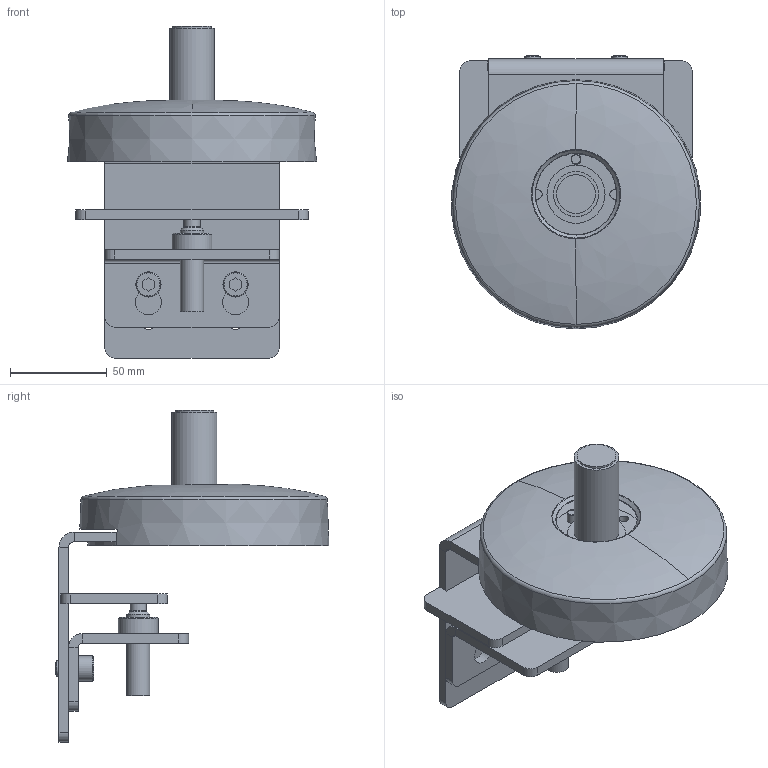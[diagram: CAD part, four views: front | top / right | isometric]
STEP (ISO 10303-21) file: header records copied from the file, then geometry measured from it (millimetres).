
FILE_DESCRIPTION(/* description */ (''),/* implementation_level */ '2;1');
FILE_NAME(/* name */ 'FLX-018-AS01.step',/* time_stamp */ '2022-10-24T10:43:43+01:00',/* author */ (''),/* organization */ (''),/* preprocessor_version */ 'ST-DEVELOPER v19.2',/* originating_system */ 'Autodesk Translation Framework v11.17.0.187',/* authorisation */ '');
FILE_SCHEMA (('AUTOMOTIVE_DESIGN { 1 0 10303 214 3 1 1 }'));
Length unit declared in the file: millimetre
Products named in the file (1): P077-Split Clamp
Bounding box: 128.77 x 141.5 x 171.53 mm (x, y, z)
Volume: 307231.9 mm3; surface area: 169221.5 mm2
Topology: 13 solids, 13 shells, 304 faces, 789 edges, 513 vertices
Faces by surface type: plane 216, cylinder 55, cone 20, bspline 9, torus 4
Full cylindrical faces by diameter (mm): 5 x6, 5.1 x1, 6.8 x4, 7 x4, 8 x2, 8.5 x1, 8.8 x1, 10.2 x1, 12 x1, 13 x2, 16.5 x1, 16.95 x1, 17 x1, 17.5 x1, 20 x2, 20.55 x1, 23.25 x1, 30 x1, 50 x1, 120 x1
Entity records: 13178 total; most frequent: CARTESIAN_POINT 5121, DIRECTION 1604, ORIENTED_EDGE 1572, EDGE_CURVE 786, AXIS2_PLACEMENT_3D 545, LINE 514, VECTOR 514, VERTEX_POINT 513
